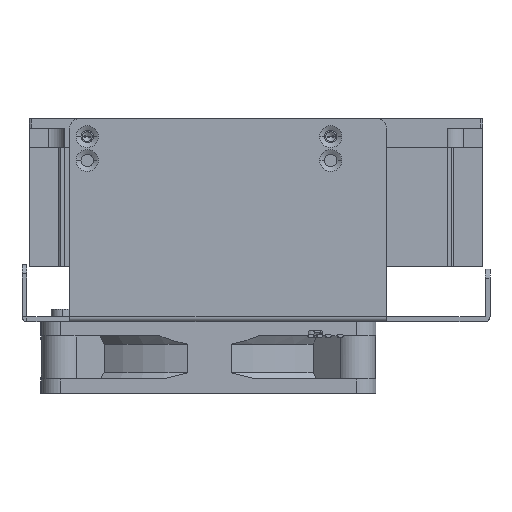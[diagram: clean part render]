
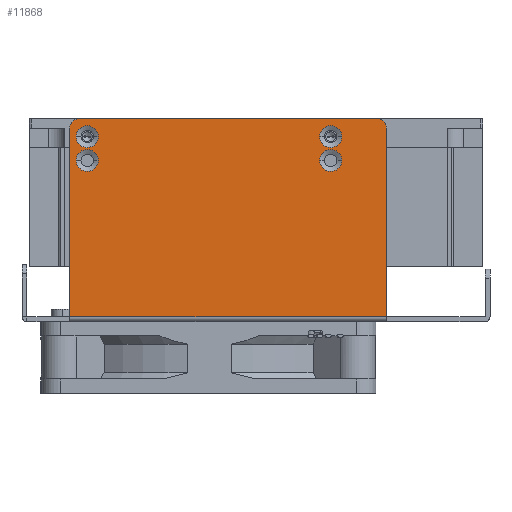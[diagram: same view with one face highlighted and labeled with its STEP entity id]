
A CAD part, left-side view. The second image highlights one B-rep face of the part: STEP entity #11868.
In plain terms, the highlighted planar face has unit normal (-1, 0, 0).
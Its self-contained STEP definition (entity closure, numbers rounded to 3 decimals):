
#10223=DIRECTION('',(0.,-1.,0.));
#10224=VECTOR('',#10223,39.5);
#10225=CARTESIAN_POINT('',(-48.65,-1.,-37.15));
#10226=LINE('',#10225,#10224);
#10227=CARTESIAN_POINT('',(-48.65,-33.75,25.5));
#10228=DIRECTION('',(-1.,0.,0.));
#10229=DIRECTION('',(0.,0.,1.));
#10230=AXIS2_PLACEMENT_3D('',#10227,#10228,#10229);
#10232=CARTESIAN_POINT('',(-48.65,-33.75,25.5));
#10233=DIRECTION('',(-1.,0.,0.));
#10234=DIRECTION('',(0.,0.,-1.));
#10235=AXIS2_PLACEMENT_3D('',#10232,#10233,#10234);
#10237=CARTESIAN_POINT('',(-48.65,-33.75,-25.5));
#10238=DIRECTION('',(-1.,0.,0.));
#10239=DIRECTION('',(0.,0.,1.));
#10240=AXIS2_PLACEMENT_3D('',#10237,#10238,#10239);
#10242=CARTESIAN_POINT('',(-48.65,-33.75,-25.5));
#10243=DIRECTION('',(-1.,0.,0.));
#10244=DIRECTION('',(0.,0.,-1.));
#10245=AXIS2_PLACEMENT_3D('',#10242,#10243,#10244);
#10247=CARTESIAN_POINT('',(-48.65,-38.75,-25.5));
#10248=DIRECTION('',(-1.,0.,0.));
#10249=DIRECTION('',(0.,0.,1.));
#10250=AXIS2_PLACEMENT_3D('',#10247,#10248,#10249);
#10252=CARTESIAN_POINT('',(-48.65,-38.75,-25.5));
#10253=DIRECTION('',(-1.,0.,0.));
#10254=DIRECTION('',(0.,0.,-1.));
#10255=AXIS2_PLACEMENT_3D('',#10252,#10253,#10254);
#10257=CARTESIAN_POINT('',(-48.65,-38.75,25.5));
#10258=DIRECTION('',(-1.,0.,0.));
#10259=DIRECTION('',(0.,0.,1.));
#10260=AXIS2_PLACEMENT_3D('',#10257,#10258,#10259);
#10262=CARTESIAN_POINT('',(-48.65,-38.75,25.5));
#10263=DIRECTION('',(-1.,0.,0.));
#10264=DIRECTION('',(0.,0.,-1.));
#10265=AXIS2_PLACEMENT_3D('',#10262,#10263,#10264);
#10267=CARTESIAN_POINT('',(-48.65,-40.5,-35.15));
#10268=DIRECTION('',(-1.,0.,0.));
#10269=DIRECTION('',(0.,0.,-1.));
#10270=AXIS2_PLACEMENT_3D('',#10267,#10268,#10269);
#10272=DIRECTION('',(0.,1.,0.));
#10273=VECTOR('',#10272,39.5);
#10274=CARTESIAN_POINT('',(-48.65,-40.5,29.15));
#10275=LINE('',#10274,#10273);
#10276=CARTESIAN_POINT('',(-48.65,-40.5,27.15));
#10277=DIRECTION('',(-1.,0.,0.));
#10278=DIRECTION('',(0.,-1.,0.));
#10279=AXIS2_PLACEMENT_3D('',#10276,#10277,#10278);
#10443=DIRECTION('',(0.,0.,1.));
#10444=VECTOR('',#10443,62.3);
#10445=CARTESIAN_POINT('',(-48.65,-42.5,-35.15));
#10446=LINE('',#10445,#10444);
#10476=DIRECTION('',(0.,0.,1.));
#10477=VECTOR('',#10476,66.3);
#10478=CARTESIAN_POINT('',(-48.65,-1.,-37.15));
#10479=LINE('',#10478,#10477);
#11483=CARTESIAN_POINT('',(-48.65,-40.5,29.15));
#11485=VERTEX_POINT('',#11483);
#11559=CARTESIAN_POINT('',(-48.65,-1.,29.15));
#11561=VERTEX_POINT('',#11559);
#11610=CARTESIAN_POINT('',(-48.65,-42.5,27.15));
#11612=VERTEX_POINT('',#11610);
#11706=CARTESIAN_POINT('',(-48.65,-38.75,-23.2));
#11707=VERTEX_POINT('',#11706);
#11708=CARTESIAN_POINT('',(-48.65,-38.75,-27.8));
#11709=VERTEX_POINT('',#11708);
#11714=CARTESIAN_POINT('',(-48.65,-38.75,27.8));
#11715=VERTEX_POINT('',#11714);
#11716=CARTESIAN_POINT('',(-48.65,-38.75,23.2));
#11717=VERTEX_POINT('',#11716);
#11738=CARTESIAN_POINT('',(-48.65,-33.75,-23.2));
#11739=VERTEX_POINT('',#11738);
#11740=CARTESIAN_POINT('',(-48.65,-33.75,-27.8));
#11741=VERTEX_POINT('',#11740);
#11746=CARTESIAN_POINT('',(-48.65,-33.75,27.8));
#11747=VERTEX_POINT('',#11746);
#11748=CARTESIAN_POINT('',(-48.65,-33.75,23.2));
#11749=VERTEX_POINT('',#11748);
#11762=CARTESIAN_POINT('',(-48.65,-1.,-37.15));
#11764=VERTEX_POINT('',#11762);
#11782=CARTESIAN_POINT('',(-48.65,-40.5,-37.15));
#11783=CARTESIAN_POINT('',(-48.65,-42.5,-35.15));
#11784=VERTEX_POINT('',#11782);
#11785=VERTEX_POINT('',#11783);
#11827=CARTESIAN_POINT('',(-48.65,0.,-39.15));
#11828=DIRECTION('',(-1.,0.,0.));
#11829=DIRECTION('',(0.,0.,1.));
#11830=AXIS2_PLACEMENT_3D('',#11827,#11828,#11829);
#11831=PLANE('',#11830);
#11832=ORIENTED_EDGE('',*,*,#11817,.F.);
#11833=ORIENTED_EDGE('',*,*,#11807,.F.);
#11835=ORIENTED_EDGE('',*,*,#11834,.T.);
#11837=ORIENTED_EDGE('',*,*,#11836,.F.);
#11839=ORIENTED_EDGE('',*,*,#11838,.F.);
#11841=ORIENTED_EDGE('',*,*,#11840,.F.);
#11842=EDGE_LOOP('',(#11832,#11833,#11835,#11837,#11839,#11841));
#11843=FACE_OUTER_BOUND('',#11842,.F.);
#11845=ORIENTED_EDGE('',*,*,#11844,.T.);
#11847=ORIENTED_EDGE('',*,*,#11846,.T.);
#11848=EDGE_LOOP('',(#11845,#11847));
#11849=FACE_BOUND('',#11848,.F.);
#11851=ORIENTED_EDGE('',*,*,#11850,.T.);
#11853=ORIENTED_EDGE('',*,*,#11852,.T.);
#11854=EDGE_LOOP('',(#11851,#11853));
#11855=FACE_BOUND('',#11854,.F.);
#11857=ORIENTED_EDGE('',*,*,#11856,.T.);
#11859=ORIENTED_EDGE('',*,*,#11858,.T.);
#11860=EDGE_LOOP('',(#11857,#11859));
#11861=FACE_BOUND('',#11860,.F.);
#11863=ORIENTED_EDGE('',*,*,#11862,.T.);
#11865=ORIENTED_EDGE('',*,*,#11864,.T.);
#11866=EDGE_LOOP('',(#11863,#11865));
#11867=FACE_BOUND('',#11866,.F.);
#11868=ADVANCED_FACE('',(#11843,#11849,#11855,#11861,#11867),#11831,.T.);
#10231=CIRCLE('',#10230,2.3);
#10236=CIRCLE('',#10235,2.3);
#10241=CIRCLE('',#10240,2.3);
#10246=CIRCLE('',#10245,2.3);
#10251=CIRCLE('',#10250,2.3);
#10256=CIRCLE('',#10255,2.3);
#10261=CIRCLE('',#10260,2.3);
#10266=CIRCLE('',#10265,2.3);
#10271=CIRCLE('',#10270,2.);
#10280=CIRCLE('',#10279,2.);
#11807=EDGE_CURVE('',#11764,#11784,#10226,.T.);
#11817=EDGE_CURVE('',#11784,#11785,#10271,.T.);
#11834=EDGE_CURVE('',#11764,#11561,#10479,.T.);
#11836=EDGE_CURVE('',#11485,#11561,#10275,.T.);
#11838=EDGE_CURVE('',#11612,#11485,#10280,.T.);
#11840=EDGE_CURVE('',#11785,#11612,#10446,.T.);
#11844=EDGE_CURVE('',#11739,#11741,#10241,.T.);
#11846=EDGE_CURVE('',#11741,#11739,#10246,.T.);
#11850=EDGE_CURVE('',#11707,#11709,#10251,.T.);
#11852=EDGE_CURVE('',#11709,#11707,#10256,.T.);
#11856=EDGE_CURVE('',#11715,#11717,#10261,.T.);
#11858=EDGE_CURVE('',#11717,#11715,#10266,.T.);
#11862=EDGE_CURVE('',#11747,#11749,#10231,.T.);
#11864=EDGE_CURVE('',#11749,#11747,#10236,.T.);
